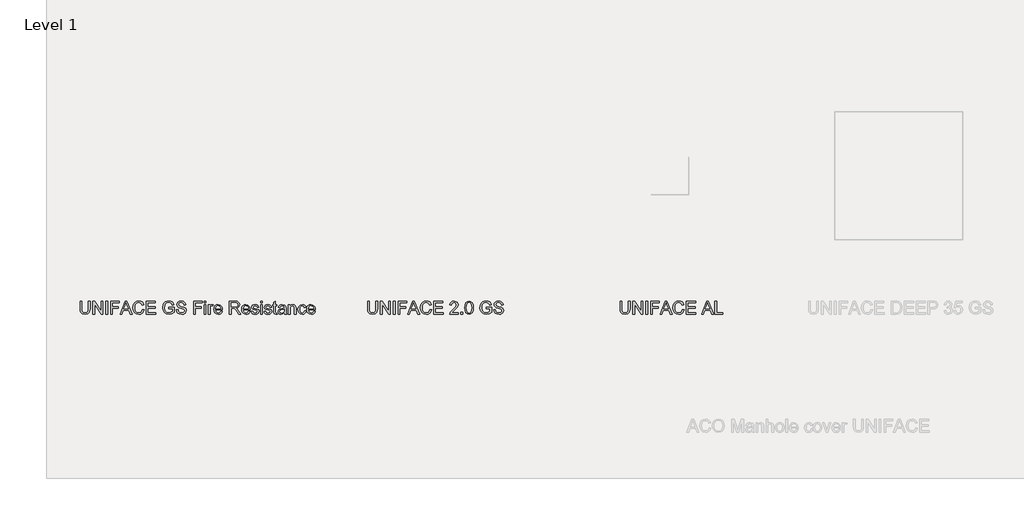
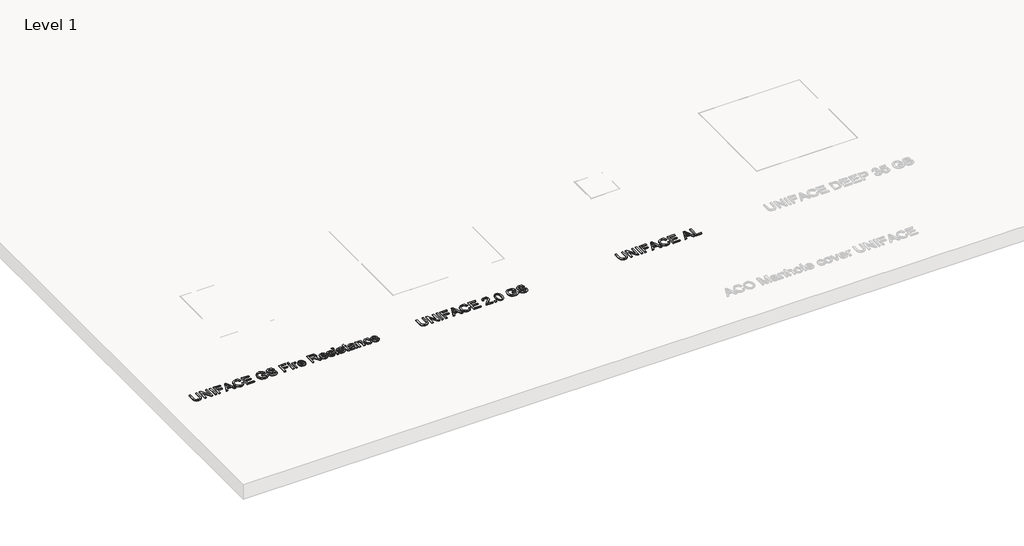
# One storey, part 3 of 9: 3 proxies.
"""IFC4 building model written with IfcOpenShell, lengths in millimetres."""

import ifcopenshell
import ifcopenshell.guid

model = None  # the IFC model being written
_history = None  # IfcOwnerHistory: only IFC2X3 demands one
_inside = {}  # id of a spatial element -> (the spatial element, [elements in it])
_under = {}  # id of a project, library or spatial element -> (it, [spatial elements below it])
_declared = {}  # id of a project -> (the project, [libraries it declares])
_typed = {}  # id of a type object -> (the type object, [elements of that type])
_made_of = {}  # id of a material, layer set ... -> (it, [elements and type objects made of it])


def new_model(schema):
    """Start an empty IFC model of exactly this schema.

    Asked for "IFC4X3", IfcOpenShell would pick the latest addendum, in which some entities
    have other attributes; the version numbers below select the first issue.
    IFC2X3 requires an IfcOwnerHistory on every rooted entity: one is made here for all.
    """
    global model, _history
    if schema == "IFC4X3":
        model = ifcopenshell.file(schema_version=(4, 3, 0, 0))
    else:
        model = ifcopenshell.file(schema=schema)
    _inside.clear()
    _under.clear()
    _declared.clear()
    _typed.clear()
    _made_of.clear()
    _history = None
    if model.schema == "IFC2X3":
        org = make("IfcOrganization", Name="unknown")
        user = make(
            "IfcPersonAndOrganization",
            ThePerson=make("IfcPerson", FamilyName="unknown"),
            TheOrganization=org,
        )
        app = make(
            "IfcApplication",
            ApplicationDeveloper=org,
            Version="unknown",
            ApplicationFullName="unknown",
            ApplicationIdentifier="unknown",
        )
        _history = make(
            "IfcOwnerHistory",
            OwningUser=user,
            OwningApplication=app,
            ChangeAction="ADDED",
            CreationDate=0,
        )
    return model


def make(cls, **values):
    """One entity of the class cls with the attributes given. An attribute that is None is left unset."""
    return model.create_entity(
        cls, **{name: value for name, value in values.items() if value is not None}
    )


def rooted(cls, **values):
    """An entity with a GlobalId (a new one), such as an element, a storey or a relation."""
    return make(cls, GlobalId=ifcopenshell.guid.new(), OwnerHistory=_history, **values)


def si_unit(unit_type, name, prefix=None):
    """IfcSIUnit, for example si_unit("LENGTHUNIT", "METRE", prefix="MILLI")."""
    return make("IfcSIUnit", UnitType=unit_type, Prefix=prefix, Name=name)


def assignment(units):
    """IfcUnitAssignment: the units of a project."""
    return None if units is None else make("IfcUnitAssignment", Units=units)


def point(xyz):
    """IfcCartesianPoint."""
    return None if xyz is None else make("IfcCartesianPoint", Coordinates=xyz)


def direction(xyz):
    """IfcDirection."""
    return None if xyz is None else make("IfcDirection", DirectionRatios=xyz)


def frame(location, z_axis=None, x_axis=None):
    """IfcAxis2Placement3D, a coordinate frame: its origin and axes. An axis left out is left unset."""
    return make(
        "IfcAxis2Placement3D",
        Location=point(location),
        Axis=direction(z_axis),
        RefDirection=direction(x_axis),
    )


def origin():
    """The frame at (0, 0, 0) with its axes left unset."""
    return frame((0.0, 0.0, 0.0))


def origin_with_axes():
    """The frame at (0, 0, 0) with the z axis (0, 0, 1) and the x axis (1, 0, 0) written out."""
    return frame((0.0, 0.0, 0.0), z_axis=(0.0, 0.0, 1.0), x_axis=(1.0, 0.0, 0.0))


def place(relative_to, where):
    """IfcLocalPlacement: puts the frame where relative to a parent placement (None: the world)."""
    return make(
        "IfcLocalPlacement", PlacementRelTo=relative_to, RelativePlacement=where
    )


def context(
    kind, dimensions, precision=None, world=None, true_north=None, identifier=None
):
    """IfcGeometricRepresentationContext, for example the 3D "Model" context."""
    return make(
        "IfcGeometricRepresentationContext",
        ContextIdentifier=identifier,
        ContextType=kind,
        CoordinateSpaceDimension=dimensions,
        Precision=precision,
        WorldCoordinateSystem=world,
        TrueNorth=true_north,
    )


def project(units=None, contexts=None):
    """IfcProject with its units and contexts."""
    return rooted(
        "IfcProject",
        Name="project",
        RepresentationContexts=contexts,
        UnitsInContext=assignment(units),
    )


def spatial(cls, under=None, at=None, **own):
    """A site, building, storey or space (cls), placed at a placement, below another one or the project."""
    s = rooted(cls, ObjectPlacement=at, **own)
    if under is not None:
        _under.setdefault(under.id(), (under, []))[1].append(s)
    return s


def polyline(points):
    """IfcPolyline through the points."""
    return make("IfcPolyline", Points=[point(p) for p in points])


def outline(outer, holes=None, kind="AREA"):
    """IfcArbitraryClosedProfileDef: a profile drawn as a closed curve; with holes, ...WithVoids."""
    if holes is None:
        return make("IfcArbitraryClosedProfileDef", ProfileType=kind, OuterCurve=outer)
    return make(
        "IfcArbitraryProfileDefWithVoids",
        ProfileType=kind,
        OuterCurve=outer,
        InnerCurves=holes,
    )


def extrude(swept, where, along, depth):
    """IfcExtrudedAreaSolid: the profile swept, set in the frame where, extruded along a direction by depth."""
    return make(
        "IfcExtrudedAreaSolid",
        SweptArea=swept,
        Position=where,
        ExtrudedDirection=direction(along),
        Depth=depth,
    )


def shape(context_of_items, identifier, shape_type, items):
    """IfcShapeRepresentation: the items that make up one representation, for example the "Body"."""
    return make(
        "IfcShapeRepresentation",
        ContextOfItems=context_of_items,
        RepresentationIdentifier=identifier,
        RepresentationType=shape_type,
        Items=items,
    )


def made_of(thing, what):
    """Note that an element or type object is made of a material, layer set ...; save() writes the relation."""
    if what is not None:
        _made_of.setdefault(what.id(), (what, []))[1].append(thing)
    return thing


def element(
    cls,
    number,
    at=None,
    inside=None,
    cuts=None,
    type_object=None,
    material=None,
    context=None,
    identifier="Body",
    shape_type=None,
    held_by="IfcProductDefinitionShape",
    body=None,
    shapes=None,
    **own,
):
    """One element of the class cls, such as IfcWall. Its Tag is "e" and its number.

    at: its placement. inside: the storey or other place that contains it. cuts: it is an
    opening in that element (IfcRelVoidsElement). A single representation is given by context,
    identifier, shape_type and body (its items); several are given by shapes. held_by: the class
    of the entity that holds the representations. save() writes the other relations.
    """
    e = rooted(cls, Tag="e%d" % number, ObjectPlacement=at, **own)
    if body is not None:
        shapes = [shape(context, identifier, shape_type, body)]
    if shapes is not None:
        e.Representation = make(held_by, Representations=shapes)
    if inside is not None:
        _inside.setdefault(inside.id(), (inside, []))[1].append(e)
    if cuts is not None:
        rooted(
            "IfcRelVoidsElement", RelatingBuildingElement=cuts, RelatedOpeningElement=e
        )
    if type_object is not None:
        _typed.setdefault(type_object.id(), (type_object, []))[1].append(e)
    return made_of(e, material)


def aggregate(whole, parts):
    """IfcRelAggregates: a whole, such as a stair, and the parts it consists of."""
    return rooted("IfcRelAggregates", RelatingObject=whole, RelatedObjects=parts)


def save(model, path):
    """Write the relations noted so far, then the file.

    IfcRelAggregates (storeys below a building ...), IfcRelContainedInSpatialStructure (elements
    in a storey), IfcRelDefinesByType, IfcRelAssociatesMaterial and IfcRelDeclares: one each for
    every whole, place, type object, material and project.
    """
    for whole, parts in _under.values():
        aggregate(whole, parts)
    for where, things in _inside.values():
        rooted(
            "IfcRelContainedInSpatialStructure",
            RelatedElements=things,
            RelatingStructure=where,
        )
    for kind, things in _typed.values():
        rooted("IfcRelDefinesByType", RelatedObjects=things, RelatingType=kind)
    for what, things in _made_of.values():
        rooted("IfcRelAssociatesMaterial", RelatedObjects=things, RelatingMaterial=what)
    for by, libraries in _declared.values():
        rooted("IfcRelDeclares", RelatingContext=by, RelatedDefinitions=libraries)
    model.write(path)


model = new_model("IFC4")

# Units and contexts
model_context = context("Model", 3, world=origin())
ifc_project = project(units=[si_unit("LENGTHUNIT", "METRE", prefix="MILLI")], contexts=[model_context])

# Site, building, storey
site = spatial("IfcSite", under=ifc_project)
building = spatial("IfcBuilding", under=site)
storey = spatial("IfcBuildingStorey", under=building, Name="Level 1", Elevation=0.0)

# Proxies
placement = place(None, origin())
element("IfcBuildingElementProxy", 1, Name="100mm ACO", ObjectType="100mm ACO", at=placement, inside=storey, context=model_context, shape_type="SweptSolid", body=[
    extrude(outline(polyline([(2099.7357905, -15767.3956492), (2098.8917656, -15781.7586247), (2094.4097023, -15795.3212318), (2082.5933536, -15806.9338503), (2060.7942276, -15811.5759873), (2039.3443533, -15807.4577279), (2027.3970352, -15796.8055515), (2022.5511681, -15783.1992879), (2021.503413, -15767.3956492), (2021.503413, -15709.1288264), (2034.5421426, -15709.1288264), (2034.5421426, -15767.7449008), (2035.8372842, -15783.5048831), (2042.6622443, -15795.2630232), (2049.6982105, -15799.1157058), (2059.7464725, -15800.3999334), (2077.2818176, -15796.3107783), (2084.9216982, -15785.3821109), (2086.6970609, -15767.7449008), (2086.6970609, -15709.1288264), (2099.7357905, -15709.1288264), (2099.7357905, -15767.3956492)])), origin_with_axes(), (0.0, 0.0, 1.0), 10.0),
    extrude(outline(polyline([(2200.3202758, -15809.7133117), (2186.3502084, -15809.7133117), (2135.3885667, -15731.0152653), (2135.3885667, -15809.7133117), (2122.0878983, -15809.7133117), (2122.0878983, -15709.1288264), (2136.08707, -15709.1288264), (2187.0196075, -15787.7686641), (2187.0196075, -15709.1288264), (2200.3202758, -15709.1288264), (2200.3202758, -15809.7133117)])), origin_with_axes(), (0.0, 0.0, 1.0), 10.0),
    extrude(outline(polyline([(2237.5737889, -15809.7133117), (2224.5350593, -15809.7133117), (2224.5350593, -15709.1288264), (2237.5737889, -15709.1288264), (2237.5737889, -15809.7133117)])), origin_with_axes(), (0.0, 0.0, 1.0), 10.0),
    extrude(outline(polyline([(2328.8448959, -15720.3048803), (2274.827302, -15720.3048803), (2274.827302, -15751.9703664), (2321.3941933, -15751.9703664), (2321.3941933, -15763.1464203), (2274.827302, -15763.1464203), (2274.827302, -15809.7133117), (2261.7885724, -15809.7133117), (2261.7885724, -15709.1288264), (2328.8448959, -15709.1288264), (2328.8448959, -15720.3048803)])), origin_with_axes(), (0.0, 0.0, 1.0), 10.0),
    extrude(outline(polyline([(2429.8950502, -15809.7133117), (2416.0122957, -15809.7133117), (2403.9631125, -15779.9105012), (2361.267094, -15779.9105012), (2349.6835798, -15809.7133117), (2335.8299296, -15809.7133117), (2374.9170141, -15709.1288264), (2389.1781245, -15709.1288264), (2429.8950502, -15809.7133117)]), holes=[polyline([(2399.4228406, -15768.7344473), (2384.9143435, -15731.8592902), (2381.9311521, -15720.1302544), (2377.2453586, -15738.8152196), (2365.6327401, -15768.7344473), (2399.4228406, -15768.7344473)])]), origin_with_axes(), (0.0, 0.0, 1.0), 10.0),
    extrude(outline(polyline([(2524.4258396, -15777.6985739), (2518.4776468, -15792.6108932), (2509.3061521, -15803.1793947), (2497.449785, -15809.4768392), (2483.4469752, -15811.5759873), (2462.4191133, -15807.6978384), (2447.9979292, -15796.0633916), (2439.6595452, -15778.9718873), (2436.8800839, -15758.7225656), (2440.1434043, -15737.2108447), (2449.9333656, -15720.9306229), (2464.852961, -15710.6822687), (2483.5051838, -15707.2661507), (2496.8968031, -15709.0888079), (2508.2001884, -15714.5567796), (2516.9205664, -15723.5390964), (2522.5631639, -15735.9047889), (2509.5244344, -15738.9316368), (2499.6144178, -15723.5791148), (2483.0104106, -15718.4422046), (2468.7056437, -15721.1670954), (2458.3299582, -15729.3417676), (2452.0215996, -15742.1003683), (2449.9188134, -15758.5770441), (2452.1452929, -15777.047365), (2458.8247314, -15790.0824565), (2469.0839997, -15797.8205642), (2482.0499685, -15800.3999334), (2492.6803166, -15798.7737302), (2501.1132896, -15793.8951208), (2507.3488874, -15785.7495528), (2511.38711, -15774.3224742), (2524.4258396, -15777.6985739)])), origin_with_axes(), (0.0, 0.0, 1.0), 10.0),
    extrude(outline(polyline([(2615.6969466, -15809.7133117), (2541.1899205, -15809.7133117), (2541.1899205, -15709.1288264), (2613.834271, -15709.1288264), (2613.834271, -15720.3048803), (2554.2286501, -15720.3048803), (2554.2286501, -15751.9703664), (2610.1089197, -15751.9703664), (2610.1089197, -15763.1464203), (2554.2286501, -15763.1464203), (2554.2286501, -15798.5372577), (2615.6969466, -15798.5372577), (2615.6969466, -15809.7133117)])), origin_with_axes(), (0.0, 0.0, 1.0), 10.0),
    extrude(outline(polyline([(2733.0455129, -15809.7133117), (2665.9891893, -15809.7133117), (2671.9846766, -15794.0260901), (2694.1330543, -15772.2851727), (2712.0030988, -15754.8516928), (2718.0058622, -15745.771149), (2720.0067833, -15736.6323966), (2714.5497257, -15723.593667), (2700.7688363, -15718.4422046), (2686.6532473, -15723.5791148), (2682.3603621, -15729.9857004), (2680.8905945, -15738.9316368), (2667.851865, -15737.5346301), (2671.0096823, -15725.3617536), (2678.0965811, -15716.4340074), (2688.3704015, -15710.9551216), (2701.0889837, -15709.1288264), (2714.5242594, -15711.2279745), (2724.619816, -15717.5254189), (2730.9390886, -15726.7915027), (2733.0455129, -15737.7965688), (2731.2847023, -15747.7575179), (2726.0022705, -15757.8494364), (2698.4113874, -15785.5276325), (2682.7532702, -15800.3999334), (2733.0455129, -15800.3999334), (2733.0455129, -15809.7133117)])), origin_with_axes(), (0.0, 0.0, 1.0), 10.0),
    extrude(outline(polyline([(2768.4363503, -15809.7133117), (2753.5349451, -15809.7133117), (2753.5349451, -15794.8119064), (2768.4363503, -15794.8119064), (2768.4363503, -15809.7133117)])), origin_with_axes(), (0.0, 0.0, 1.0), 10.0),
    extrude(outline(polyline([(2818.6994886, -15709.1288264), (2833.3807925, -15712.3339382), (2843.8674382, -15721.9492736), (2850.1594256, -15737.9748327), (2852.2567547, -15760.4106155), (2850.0884838, -15783.0137479), (2843.5836712, -15798.9592702), (2833.0260838, -15808.421808), (2818.6994886, -15811.5759873), (2804.043651, -15808.3781516), (2793.5751955, -15798.7846444), (2787.2941223, -15782.7954656), (2785.2004312, -15760.4106155), (2787.368702, -15737.811121), (2793.8735147, -15721.8183042), (2804.4165499, -15712.3011958), (2818.6994886, -15709.1288264)]), holes=[polyline([(2818.7285929, -15802.2626091), (2827.6199588, -15799.8142092), (2834.0374585, -15792.4690097), (2837.9228835, -15779.5576115), (2839.2180251, -15760.4106155), (2836.9478892, -15736.0503104), (2830.0938249, -15722.8078507), (2818.5830714, -15718.4422046), (2809.7098958, -15720.9342609), (2803.3469666, -15728.4104298), (2799.5161122, -15741.3945888), (2798.2391607, -15760.4106155), (2800.5529532, -15784.6108468), (2807.4070175, -15797.896963), (2818.7285929, -15802.2626091)])]), origin_with_axes(), (0.0, 0.0, 1.0), 10.0),
    extrude(outline(polyline([(2995.6827801, -15796.2962261), (2976.1610661, -15807.756047), (2954.9076458, -15811.5759873), (2934.4072995, -15808.039814), (2918.3089797, -15797.4312941), (2907.8859997, -15780.9582563), (2904.411673, -15759.8285293), (2910.0724608, -15733.168984), (2917.0756847, -15722.2184885), (2926.7637809, -15714.0474542), (2939.0239702, -15708.9614766), (2953.7434736, -15707.2661507), (2968.666707, -15709.1506546), (2980.3157059, -15714.8041662), (2988.6977464, -15724.2194096), (2993.8201044, -15737.3891085), (2980.7813748, -15740.7943125), (2977.001453, -15731.0334555), (2971.0750884, -15724.0447837), (2963.0022812, -15719.8428494), (2952.7830314, -15718.4422046), (2937.4341475, -15721.2653224), (2926.3708727, -15729.7346758), (2919.6805201, -15742.7734054), (2917.4504026, -15759.3046518), (2921.8597051, -15782.0496678), (2934.9420912, -15795.7577964), (2953.8016822, -15800.3999334), (2968.7540199, -15797.5768156), (2982.6440505, -15789.1074622), (2982.6440505, -15768.7344473), (2952.84124, -15768.7344473), (2952.84124, -15757.5583934), (2995.6827801, -15757.5583934), (2995.6827801, -15796.2962261)])), origin_with_axes(), (0.0, 0.0, 1.0), 10.0),
    extrude(outline(polyline([(3073.9151575, -15738.9316368), (3071.8924082, -15729.9857004), (3067.3957928, -15723.5791148), (3060.4253112, -15719.7264322), (3050.9809636, -15718.4422046), (3035.2646377, -15722.4440468), (3030.7243658, -15727.3590367), (3029.2109419, -15734.1003218), (3033.7075573, -15744.2140686), (3051.9996143, -15750.5442553), (3071.9506168, -15756.0595215), (3085.1785244, -15765.0382003), (3089.3040599, -15772.1614794), (3090.6792384, -15781.3657166), (3088.1580778, -15793.2730162), (3080.594596, -15802.9756646), (3068.9783395, -15809.4259066), (3054.2988546, -15811.5759873), (3036.2105277, -15809.1894341), (3023.3318718, -15802.0297746), (3015.4737089, -15791.072003), (3012.446861, -15777.2911136), (3025.4855905, -15776.1851499), (3028.1304445, -15787.1247313), (3034.3769564, -15794.6227284), (3043.2646841, -15798.9556322), (3053.8331857, -15800.3999334), (3071.0629355, -15795.6413792), (3075.9961155, -15790.035162), (3077.6405089, -15782.733619), (3075.9415449, -15775.3629532), (3070.8446532, -15770.3060799), (3047.4302381, -15762.8117208), (3033.1363853, -15758.4460747), (3023.4919455, -15752.5379004), (3018.0021456, -15744.8652774), (3016.1722123, -15735.2062855), (3018.4678145, -15724.1466488), (3025.3546212, -15715.1825222), (3036.1996136, -15709.2452436), (3050.3697731, -15707.2661507), (3065.0165157, -15709.2597957), (3076.4763366, -15715.2407308), (3084.0289043, -15724.8888086), (3086.9538871, -15737.8838818), (3073.9151575, -15738.9316368)])), origin_with_axes(), (0.0, 0.0, 1.0), 10.0),
])
element("IfcBuildingElementProxy", 2, Name="100mm ACO", ObjectType="100mm ACO", at=placement, inside=storey, context=model_context, shape_type="SweptSolid", body=[
    extrude(outline(polyline([(4084.6433876, -15767.3956492), (4083.7993627, -15781.7586247), (4079.3172994, -15795.3212318), (4067.5009507, -15806.9338503), (4045.7018247, -15811.5759873), (4024.2519504, -15807.4577279), (4012.3046323, -15796.8055515), (4007.4587652, -15783.1992879), (4006.4110101, -15767.3956492), (4006.4110101, -15709.1288264), (4019.4497397, -15709.1288264), (4019.4497397, -15767.7449008), (4020.7448814, -15783.5048831), (4027.5698414, -15795.2630232), (4034.6058076, -15799.1157058), (4044.6540696, -15800.3999334), (4062.1894147, -15796.3107783), (4069.8292953, -15785.3821109), (4071.604658, -15767.7449008), (4071.604658, -15709.1288264), (4084.6433876, -15709.1288264), (4084.6433876, -15767.3956492)])), origin_with_axes(), (0.0, 0.0, 1.0), 10.0),
    extrude(outline(polyline([(4185.2278729, -15809.7133117), (4171.2578055, -15809.7133117), (4120.2961638, -15731.0152653), (4120.2961638, -15809.7133117), (4106.9954954, -15809.7133117), (4106.9954954, -15709.1288264), (4120.9946671, -15709.1288264), (4171.9272046, -15787.7686641), (4171.9272046, -15709.1288264), (4185.2278729, -15709.1288264), (4185.2278729, -15809.7133117)])), origin_with_axes(), (0.0, 0.0, 1.0), 10.0),
    extrude(outline(polyline([(4222.481386, -15809.7133117), (4209.4426564, -15809.7133117), (4209.4426564, -15709.1288264), (4222.481386, -15709.1288264), (4222.481386, -15809.7133117)])), origin_with_axes(), (0.0, 0.0, 1.0), 10.0),
    extrude(outline(polyline([(4313.752493, -15720.3048803), (4259.7348991, -15720.3048803), (4259.7348991, -15751.9703664), (4306.3017904, -15751.9703664), (4306.3017904, -15763.1464203), (4259.7348991, -15763.1464203), (4259.7348991, -15809.7133117), (4246.6961695, -15809.7133117), (4246.6961695, -15709.1288264), (4313.752493, -15709.1288264), (4313.752493, -15720.3048803)])), origin_with_axes(), (0.0, 0.0, 1.0), 10.0),
    extrude(outline(polyline([(4414.8026473, -15809.7133117), (4400.9198928, -15809.7133117), (4388.8707096, -15779.9105012), (4346.1746911, -15779.9105012), (4334.5911769, -15809.7133117), (4320.7375267, -15809.7133117), (4359.8246112, -15709.1288264), (4374.0857216, -15709.1288264), (4414.8026473, -15809.7133117)]), holes=[polyline([(4384.3304377, -15768.7344473), (4369.8219406, -15731.8592902), (4366.8387492, -15720.1302544), (4362.1529557, -15738.8152196), (4350.5403372, -15768.7344473), (4384.3304377, -15768.7344473)])]), origin_with_axes(), (0.0, 0.0, 1.0), 10.0),
    extrude(outline(polyline([(4509.3334367, -15777.6985739), (4503.3852439, -15792.6108932), (4494.2137492, -15803.1793947), (4482.3573821, -15809.4768392), (4468.3545723, -15811.5759873), (4447.3267104, -15807.6978384), (4432.9055263, -15796.0633916), (4424.5671423, -15778.9718873), (4421.787681, -15758.7225656), (4425.0510014, -15737.2108447), (4434.8409627, -15720.9306229), (4449.7605581, -15710.6822687), (4468.4127809, -15707.2661507), (4481.8044002, -15709.0888079), (4493.1077855, -15714.5567796), (4501.8281635, -15723.5390964), (4507.4707611, -15735.9047889), (4494.4320315, -15738.9316368), (4484.5220149, -15723.5791148), (4467.9180077, -15718.4422046), (4453.6132408, -15721.1670954), (4443.2375553, -15729.3417676), (4436.9291967, -15742.1003683), (4434.8264105, -15758.5770441), (4437.05289, -15777.047365), (4443.7323285, -15790.0824565), (4453.9915968, -15797.8205642), (4466.9575656, -15800.3999334), (4477.5879137, -15798.7737302), (4486.0208867, -15793.8951208), (4492.2564845, -15785.7495528), (4496.2947071, -15774.3224742), (4509.3334367, -15777.6985739)])), origin_with_axes(), (0.0, 0.0, 1.0), 10.0),
    extrude(outline(polyline([(4600.6045438, -15809.7133117), (4526.0975176, -15809.7133117), (4526.0975176, -15709.1288264), (4598.7418681, -15709.1288264), (4598.7418681, -15720.3048803), (4539.1362472, -15720.3048803), (4539.1362472, -15751.9703664), (4595.0165168, -15751.9703664), (4595.0165168, -15763.1464203), (4539.1362472, -15763.1464203), (4539.1362472, -15798.5372577), (4600.6045438, -15798.5372577), (4600.6045438, -15809.7133117)])), origin_with_axes(), (0.0, 0.0, 1.0), 10.0),
    extrude(outline(polyline([(4740.7708867, -15809.7133117), (4726.8881322, -15809.7133117), (4714.8389491, -15779.9105012), (4672.1429306, -15779.9105012), (4660.5594164, -15809.7133117), (4646.7057662, -15809.7133117), (4685.7928506, -15709.1288264), (4700.0539611, -15709.1288264), (4740.7708867, -15809.7133117)]), holes=[polyline([(4710.2986772, -15768.7344473), (4695.7901801, -15731.8592902), (4692.8069886, -15720.1302544), (4688.1211952, -15738.8152196), (4676.5085767, -15768.7344473), (4710.2986772, -15768.7344473)])]), origin_with_axes(), (0.0, 0.0, 1.0), 10.0),
    extrude(outline(polyline([(4814.812244, -15809.7133117), (4751.4812717, -15809.7133117), (4751.4812717, -15709.1288264), (4764.5200013, -15709.1288264), (4764.5200013, -15798.5372577), (4814.812244, -15798.5372577), (4814.812244, -15809.7133117)])), origin_with_axes(), (0.0, 0.0, 1.0), 10.0),
])
element("IfcBuildingElementProxy", 3, Name="100mm ACO", ObjectType="100mm ACO", at=placement, inside=storey, context=model_context, shape_type="SweptSolid", body=[
    extrude(outline(polyline([(-159.7546973, -15767.3956492), (-160.5987222, -15781.7586247), (-165.0807855, -15795.3212318), (-176.8971342, -15806.9338503), (-198.6962602, -15811.5759873), (-220.1461346, -15807.4577279), (-232.0934526, -15796.8055515), (-236.9393198, -15783.1992879), (-237.9870748, -15767.3956492), (-237.9870748, -15709.1288264), (-224.9483452, -15709.1288264), (-224.9483452, -15767.7449008), (-223.6532036, -15783.5048831), (-216.8282436, -15795.2630232), (-209.7922773, -15799.1157058), (-199.7440153, -15800.3999334), (-182.2086703, -15796.3107783), (-174.5687896, -15785.3821109), (-172.7934269, -15767.7449008), (-172.7934269, -15709.1288264), (-159.7546973, -15709.1288264), (-159.7546973, -15767.3956492)])), origin_with_axes(), (0.0, 0.0, 1.0), 10.0),
    extrude(outline(polyline([(-59.170212, -15809.7133117), (-73.1402794, -15809.7133117), (-124.1019211, -15731.0152653), (-124.1019211, -15809.7133117), (-137.4025895, -15809.7133117), (-137.4025895, -15709.1288264), (-123.4034178, -15709.1288264), (-72.4708804, -15787.7686641), (-72.4708804, -15709.1288264), (-59.170212, -15709.1288264), (-59.170212, -15809.7133117)])), origin_with_axes(), (0.0, 0.0, 1.0), 10.0),
    extrude(outline(polyline([(-21.9166989, -15809.7133117), (-34.9554285, -15809.7133117), (-34.9554285, -15709.1288264), (-21.9166989, -15709.1288264), (-21.9166989, -15809.7133117)])), origin_with_axes(), (0.0, 0.0, 1.0), 10.0),
    extrude(outline(polyline([(69.3544081, -15720.3048803), (15.3368141, -15720.3048803), (15.3368141, -15751.9703664), (61.9037055, -15751.9703664), (61.9037055, -15763.1464203), (15.3368141, -15763.1464203), (15.3368141, -15809.7133117), (2.2980846, -15809.7133117), (2.2980846, -15709.1288264), (69.3544081, -15709.1288264), (69.3544081, -15720.3048803)])), origin_with_axes(), (0.0, 0.0, 1.0), 10.0),
    extrude(outline(polyline([(170.4045623, -15809.7133117), (156.5218079, -15809.7133117), (144.4726247, -15779.9105012), (101.7766062, -15779.9105012), (90.193092, -15809.7133117), (76.3394418, -15809.7133117), (115.4265262, -15709.1288264), (129.6876367, -15709.1288264), (170.4045623, -15809.7133117)]), holes=[polyline([(139.9323528, -15768.7344473), (125.4238557, -15731.8592902), (122.4406643, -15720.1302544), (117.7548708, -15738.8152196), (106.1422523, -15768.7344473), (139.9323528, -15768.7344473)])]), origin_with_axes(), (0.0, 0.0, 1.0), 10.0),
    extrude(outline(polyline([(264.9353518, -15777.6985739), (258.987159, -15792.6108932), (249.8156643, -15803.1793947), (237.9592971, -15809.4768392), (223.9564874, -15811.5759873), (202.9286255, -15807.6978384), (188.5074414, -15796.0633916), (180.1690574, -15778.9718873), (177.389596, -15758.7225656), (180.6529165, -15737.2108447), (190.4428778, -15720.9306229), (205.3624732, -15710.6822687), (224.014696, -15707.2661507), (237.4063153, -15709.0888079), (248.7097006, -15714.5567796), (257.4300786, -15723.5390964), (263.0726761, -15735.9047889), (250.0339466, -15738.9316368), (240.12393, -15723.5791148), (223.5199228, -15718.4422046), (209.2151559, -15721.1670954), (198.8394704, -15729.3417676), (192.5311118, -15742.1003683), (190.4283256, -15758.5770441), (192.6548051, -15777.047365), (199.3342436, -15790.0824565), (209.5935118, -15797.8205642), (222.5594807, -15800.3999334), (233.1898288, -15798.7737302), (241.6228018, -15793.8951208), (247.8583996, -15785.7495528), (251.8966222, -15774.3224742), (264.9353518, -15777.6985739)])), origin_with_axes(), (0.0, 0.0, 1.0), 10.0),
    extrude(outline(polyline([(356.2064588, -15809.7133117), (281.6994327, -15809.7133117), (281.6994327, -15709.1288264), (354.3437832, -15709.1288264), (354.3437832, -15720.3048803), (294.7381623, -15720.3048803), (294.7381623, -15751.9703664), (350.6184319, -15751.9703664), (350.6184319, -15763.1464203), (294.7381623, -15763.1464203), (294.7381623, -15798.5372577), (356.2064588, -15798.5372577), (356.2064588, -15809.7133117)])), origin_with_axes(), (0.0, 0.0, 1.0), 10.0),
    extrude(outline(polyline([(501.4951599, -15796.2962261), (481.9734459, -15807.756047), (460.7200256, -15811.5759873), (440.2196793, -15808.039814), (424.1213594, -15797.4312941), (413.6983795, -15780.9582563), (410.2240528, -15759.8285293), (415.8848405, -15733.168984), (422.8880644, -15722.2184885), (432.5761607, -15714.0474542), (444.83635, -15708.9614766), (459.5558533, -15707.2661507), (474.4790868, -15709.1506546), (486.1280857, -15714.8041662), (494.5101262, -15724.2194096), (499.6324842, -15737.3891085), (486.5937546, -15740.7943125), (482.8138327, -15731.0334555), (476.8874682, -15724.0447837), (468.814661, -15719.8428494), (458.5954112, -15718.4422046), (443.2465272, -15721.2653224), (432.1832525, -15729.7346758), (425.4928999, -15742.7734054), (423.2627824, -15759.3046518), (427.6720849, -15782.0496678), (440.7544709, -15795.7577964), (459.6140619, -15800.3999334), (474.5663997, -15797.5768156), (488.4564303, -15789.1074622), (488.4564303, -15768.7344473), (458.6536198, -15768.7344473), (458.6536198, -15757.5583934), (501.4951599, -15757.5583934), (501.4951599, -15796.2962261)])), origin_with_axes(), (0.0, 0.0, 1.0), 10.0),
    extrude(outline(polyline([(579.7275373, -15738.9316368), (577.704788, -15729.9857004), (573.2081725, -15723.5791148), (566.237691, -15719.7264322), (556.7933433, -15718.4422046), (541.0770175, -15722.4440468), (536.5367456, -15727.3590367), (535.0233216, -15734.1003218), (539.5199371, -15744.2140686), (557.8119941, -15750.5442553), (577.7629966, -15756.0595215), (590.9909042, -15765.0382003), (595.1164397, -15772.1614794), (596.4916182, -15781.3657166), (593.9704576, -15793.2730162), (586.4069758, -15802.9756646), (574.7907192, -15809.4259066), (560.1112343, -15811.5759873), (542.0229075, -15809.1894341), (529.1442516, -15802.0297746), (521.2860887, -15791.072003), (518.2592407, -15777.2911136), (531.2979703, -15776.1851499), (533.9428242, -15787.1247313), (540.1893361, -15794.6227284), (549.0770639, -15798.9556322), (559.6455654, -15800.3999334), (576.8753152, -15795.6413792), (581.8084953, -15790.035162), (583.4528886, -15782.733619), (581.7539247, -15775.3629532), (576.6570329, -15770.3060799), (553.2426179, -15762.8117208), (538.948765, -15758.4460747), (529.3043253, -15752.5379004), (523.8145254, -15744.8652774), (521.984592, -15735.2062855), (524.2801943, -15724.1466488), (531.1670009, -15715.1825222), (542.0119934, -15709.2452436), (556.1821529, -15707.2661507), (570.8288954, -15709.2597957), (582.2887163, -15715.2407308), (589.841284, -15724.8888086), (592.7662669, -15737.8838818), (579.7275373, -15738.9316368)])), origin_with_axes(), (0.0, 0.0, 1.0), 10.0),
    extrude(outline(polyline([(721.290887, -15720.3048803), (667.2732931, -15720.3048803), (667.2732931, -15751.9703664), (713.8401844, -15751.9703664), (713.8401844, -15763.1464203), (667.2732931, -15763.1464203), (667.2732931, -15809.7133117), (654.2345635, -15809.7133117), (654.2345635, -15709.1288264), (721.290887, -15709.1288264), (721.290887, -15720.3048803)])), origin_with_axes(), (0.0, 0.0, 1.0), 10.0),
    extrude(outline(polyline([(751.0936975, -15809.7133117), (738.0549679, -15809.7133117), (738.0549679, -15737.0689612), (751.0936975, -15737.0689612), (751.0936975, -15809.7133117)])), origin_with_axes(), (0.0, 0.0, 1.0), 10.0),
    extrude(outline(polyline([(751.0936975, -15722.1675559), (738.0549679, -15722.1675559), (738.0549679, -15709.1288264), (751.0936975, -15709.1288264), (751.0936975, -15722.1675559)])), origin_with_axes(), (0.0, 0.0, 1.0), 10.0),
    extrude(outline(polyline([(808.8366428, -15738.0585076), (804.7620398, -15746.3823394), (796.2053735, -15744.5196638), (790.377236, -15746.1567811), (786.1643875, -15751.0681329), (782.7591836, -15769.4038463), (782.7591836, -15809.7133117), (769.720454, -15809.7133117), (769.720454, -15737.0689612), (780.896508, -15737.0689612), (780.896508, -15747.8375548), (787.8669895, -15738.3641028), (796.350895, -15735.2062855), (808.8366428, -15738.0585076)])), origin_with_axes(), (0.0, 0.0, 1.0), 10.0),
    extrude(outline(polyline([(879.6183176, -15776.1851499), (825.6007237, -15776.1851499), (827.6853197, -15787.375756), (832.4256837, -15795.5686184), (839.2470056, -15800.5891114), (847.5744755, -15802.2626091), (859.3180634, -15798.5518099), (866.579588, -15787.3612038), (879.6183176, -15788.8746278), (875.2162912, -15798.5518099), (868.2385336, -15805.6969173), (858.9397074, -15810.1062198), (847.5744755, -15811.5759873), (832.9022667, -15809.0548267), (821.8317159, -15801.4913449), (814.8794245, -15789.562217), (812.5619941, -15773.9441183), (814.7957497, -15758.3151053), (821.4970164, -15745.9457748), (832.2583339, -15737.8911578), (846.672242, -15735.2062855), (861.9811075, -15738.6842502), (874.4814074, -15750.5297032), (878.3340901, -15761.127309), (879.6183176, -15776.1851499)]), holes=[polyline([(866.579588, -15766.8717716), (864.4840779, -15756.6561598), (859.7109716, -15749.7584391), (846.3520946, -15744.5196638), (838.4502752, -15746.0767442), (832.0909841, -15750.7479855), (825.6007237, -15766.8717716), (866.579588, -15766.8717716)])]), origin_with_axes(), (0.0, 0.0, 1.0), 10.0),
    extrude(outline(polyline([(1023.5100119, -15809.7133117), (1008.4339808, -15809.7133117), (989.5598377, -15779.6776667), (981.7453312, -15770.4952579), (973.9744812, -15765.954986), (964.3409556, -15765.009096), (948.5373168, -15765.009096), (948.5373168, -15809.7133117), (935.4985872, -15809.7133117), (935.4985872, -15709.1288264), (979.8826556, -15709.1288264), (995.1478646, -15710.2784465), (1005.9455626, -15715.1097615), (1013.09067, -15724.3940354), (1015.5936404, -15736.1958319), (1013.7673451, -15746.3059406), (1008.2884593, -15754.2259502), (999.3679892, -15759.803063), (987.216941, -15762.8844816), (996.9305034, -15770.415221), (1006.0474276, -15782.1515329), (1023.5100119, -15809.7133117)]), holes=[polyline([(948.5373168, -15753.833042), (977.4669981, -15753.833042), (991.3352004, -15752.3487224), (999.4989586, -15746.5715174), (1002.5549108, -15736.9234396), (997.4762092, -15725.1507474), (990.7494762, -15721.5163471), (980.7266805, -15720.3048803), (948.5373168, -15720.3048803), (948.5373168, -15753.833042)])]), origin_with_axes(), (0.0, 0.0, 1.0), 10.0),
    extrude(outline(polyline([(1097.5513692, -15776.1851499), (1043.5337752, -15776.1851499), (1045.6183712, -15787.375756), (1050.3587352, -15795.5686184), (1057.1800572, -15800.5891114), (1065.507527, -15802.2626091), (1077.251115, -15798.5518099), (1084.5126396, -15787.3612038), (1097.5513692, -15788.8746278), (1093.1493427, -15798.5518099), (1086.1715851, -15805.6969173), (1076.872759, -15810.1062198), (1065.507527, -15811.5759873), (1050.8353182, -15809.0548267), (1039.7647674, -15801.4913449), (1032.8124761, -15789.562217), (1030.4950456, -15773.9441183), (1032.7288012, -15758.3151053), (1039.4300679, -15745.9457748), (1050.1913854, -15737.8911578), (1064.6052935, -15735.2062855), (1079.9141591, -15738.6842502), (1092.414459, -15750.5297032), (1096.2671416, -15761.127309), (1097.5513692, -15776.1851499)]), holes=[polyline([(1084.5126396, -15766.8717716), (1082.4171295, -15756.6561598), (1077.6440231, -15749.7584391), (1064.2851461, -15744.5196638), (1056.3833268, -15746.0767442), (1050.0240357, -15750.7479855), (1043.5337752, -15766.8717716), (1084.5126396, -15766.8717716)])]), origin_with_axes(), (0.0, 0.0, 1.0), 10.0),
    extrude(outline(polyline([(1153.4316388, -15757.5583934), (1148.614876, -15747.7793462), (1137.4824785, -15744.5196638), (1126.1026944, -15747.3136773), (1121.7661527, -15755.4337789), (1124.6329269, -15762.6225428), (1138.1518775, -15766.5225199), (1155.9782656, -15770.7135402), (1165.0733616, -15777.0728313), (1168.333044, -15788.4671675), (1166.3102947, -15797.4494843), (1160.2420466, -15804.8965488), (1150.7904229, -15809.9061277), (1138.6175465, -15811.5759873), (1126.0699521, -15810.1717045), (1116.6001381, -15805.9588561), (1110.2008286, -15798.944718), (1106.8647474, -15789.1365666), (1119.903477, -15787.3612038), (1125.5351604, -15798.5518099), (1138.6175465, -15802.2626091), (1150.986877, -15798.4062884), (1155.2943144, -15789.0201493), (1153.358878, -15783.0101099), (1148.527563, -15779.6194581), (1134.8630908, -15776.7090274), (1121.609717, -15773.4638972), (1113.8061247, -15768.8508645), (1108.7274231, -15756.1904909), (1110.6082889, -15747.855745), (1116.2508865, -15741.129012), (1125.0731295, -15736.6869671), (1136.492932, -15735.2062855), (1148.4948207, -15736.5014272), (1157.4916896, -15740.3868522), (1163.4835388, -15746.8552844), (1166.4703684, -15755.8994479), (1153.4316388, -15757.5583934)])), origin_with_axes(), (0.0, 0.0, 1.0), 10.0),
    extrude(outline(polyline([(1194.4105032, -15809.7133117), (1181.3717736, -15809.7133117), (1181.3717736, -15737.0689612), (1194.4105032, -15737.0689612), (1194.4105032, -15809.7133117)])), origin_with_axes(), (0.0, 0.0, 1.0), 10.0),
    extrude(outline(polyline([(1194.4105032, -15722.1675559), (1181.3717736, -15722.1675559), (1181.3717736, -15709.1288264), (1194.4105032, -15709.1288264), (1194.4105032, -15722.1675559)])), origin_with_axes(), (0.0, 0.0, 1.0), 10.0),
    extrude(outline(polyline([(1254.0161241, -15757.5583934), (1249.1993613, -15747.7793462), (1238.0669638, -15744.5196638), (1226.6871797, -15747.3136773), (1222.350638, -15755.4337789), (1225.2174122, -15762.6225428), (1238.7363629, -15766.5225199), (1256.562751, -15770.7135402), (1265.6578469, -15777.0728313), (1268.9175293, -15788.4671675), (1266.89478, -15797.4494843), (1260.826532, -15804.8965488), (1251.3749082, -15809.9061277), (1239.2020318, -15811.5759873), (1226.6544374, -15810.1717045), (1217.1846235, -15805.9588561), (1210.7853139, -15798.944718), (1207.4492327, -15789.1365666), (1220.4879623, -15787.3612038), (1226.1196457, -15798.5518099), (1239.2020318, -15802.2626091), (1251.5713623, -15798.4062884), (1255.8787997, -15789.0201493), (1253.9433633, -15783.0101099), (1249.1120483, -15779.6194581), (1235.4475762, -15776.7090274), (1222.1942023, -15773.4638972), (1214.39061, -15768.8508645), (1209.3119084, -15756.1904909), (1211.1927742, -15747.855745), (1216.8353718, -15741.129012), (1225.6576149, -15736.6869671), (1237.0774174, -15735.2062855), (1249.079306, -15736.5014272), (1258.0761749, -15740.3868522), (1264.0680242, -15746.8552844), (1267.0548537, -15755.8994479), (1254.0161241, -15757.5583934)])), origin_with_axes(), (0.0, 0.0, 1.0), 10.0),
    extrude(outline(polyline([(1309.8963937, -15810.7319624), (1300.7576413, -15811.5759873), (1289.1013663, -15808.6801088), (1284.6338552, -15801.3312712), (1283.8189346, -15788.9328364), (1283.8189346, -15746.3823394), (1274.5055563, -15746.3823394), (1274.5055563, -15737.0689612), (1283.8189346, -15737.0689612), (1283.8189346, -15718.6168305), (1296.8576641, -15710.991502), (1296.8576641, -15737.0689612), (1308.0337181, -15737.0689612), (1308.0337181, -15746.3823394), (1296.8576641, -15746.3823394), (1296.8576641, -15791.552224), (1297.9054192, -15799.8178473), (1303.2315074, -15802.2626091), (1308.2956568, -15802.2626091), (1309.8963937, -15810.7319624)])), origin_with_axes(), (0.0, 0.0, 1.0), 10.0),
    extrude(outline(polyline([(1384.4034199, -15809.7133117), (1371.3646903, -15809.7133117), (1367.639339, -15800.9238109), (1355.0735544, -15808.9129432), (1341.5327755, -15811.5759873), (1331.4881515, -15810.120772), (1323.8228047, -15805.7551259), (1318.9660234, -15799.0029267), (1317.3470963, -15790.3880518), (1318.9332811, -15782.0314776), (1323.6918353, -15775.2974685), (1332.3721949, -15770.3752026), (1345.7237957, -15767.4538578), (1357.1326841, -15765.7075993), (1367.639339, -15763.1464203), (1367.3046395, -15755.0699751), (1365.3546509, -15750.1658994), (1360.1595321, -15746.0767442), (1350.5260064, -15744.5196638), (1338.3749582, -15747.6774811), (1332.2485016, -15759.421069), (1319.209772, -15757.8203321), (1322.7859637, -15747.953972), (1329.4981445, -15740.8816254), (1339.3390384, -15736.6251205), (1352.3013692, -15735.2062855), (1371.6702855, -15739.0917105), (1379.2665097, -15748.4632974), (1380.6780686, -15762.5934385), (1380.6780686, -15779.2119978), (1381.2310504, -15799.5850128), (1384.4034199, -15809.7133117)]), holes=[polyline([(1367.639339, -15777.1164877), (1367.639339, -15772.4597986), (1344.2249239, -15777.8149911), (1333.8456004, -15781.8968702), (1330.3858259, -15790.1843216), (1334.1111772, -15798.8574051), (1344.8506665, -15802.2626091), (1360.7561704, -15796.5581649), (1365.9185468, -15788.8455235), (1367.639339, -15777.1164877)])]), origin_with_axes(), (0.0, 0.0, 1.0), 10.0),
    extrude(outline(polyline([(1458.910446, -15809.7133117), (1445.8717165, -15809.7133117), (1445.8717165, -15764.4852184), (1441.9862915, -15748.7979969), (1431.1740414, -15744.5196638), (1421.089399, -15747.2554686), (1414.3371997, -15754.96811), (1412.3435547, -15769.0545947), (1412.3435547, -15809.7133117), (1399.3048251, -15809.7133117), (1399.3048251, -15737.0689612), (1410.480879, -15737.0689612), (1410.480879, -15747.1681557), (1420.4345521, -15738.189477), (1433.7643247, -15735.2062855), (1445.2023174, -15737.2726913), (1454.0500268, -15743.4573566), (1458.0809733, -15752.2468573), (1458.910446, -15764.8635744), (1458.910446, -15809.7133117)])), origin_with_axes(), (0.0, 0.0, 1.0), 10.0),
    extrude(outline(polyline([(1539.0054992, -15785.1201722), (1534.9527244, -15796.9947295), (1527.7421323, -15805.2021441), (1518.3632694, -15809.9825265), (1507.805682, -15811.5759873), (1493.406326, -15808.9711518), (1482.6886649, -15801.1566454), (1476.0310547, -15789.0419776), (1473.8118513, -15773.536658), (1478.8760007, -15750.7188812), (1491.5509264, -15738.6842502), (1507.5437432, -15735.2062855), (1518.1559012, -15736.6287585), (1527.1163897, -15740.8961775), (1533.6903251, -15747.9212297), (1537.1428235, -15757.616602), (1524.1040939, -15759.421069), (1518.1668153, -15748.2595672), (1507.6892647, -15744.5196638), (1498.6814817, -15746.4150818), (1492.1475647, -15752.1013358), (1488.1748268, -15761.1855176), (1486.8505809, -15773.2747192), (1488.1784649, -15785.574927), (1492.1621169, -15794.7100414), (1498.6487393, -15800.3744671), (1507.4855346, -15802.2626091), (1520.1604603, -15797.6059199), (1525.9667696, -15783.6358525), (1539.0054992, -15785.1201722)])), origin_with_axes(), (0.0, 0.0, 1.0), 10.0),
    extrude(outline(polyline([(1609.787174, -15776.1851499), (1555.7695801, -15776.1851499), (1557.854176, -15787.375756), (1562.5945401, -15795.5686184), (1569.415862, -15800.5891114), (1577.7433319, -15802.2626091), (1589.4869198, -15798.5518099), (1596.7484444, -15787.3612038), (1609.787174, -15788.8746278), (1605.3851476, -15798.5518099), (1598.4073899, -15805.6969173), (1589.1085638, -15810.1062198), (1577.7433319, -15811.5759873), (1563.0711231, -15809.0548267), (1552.0005723, -15801.4913449), (1545.0482809, -15789.562217), (1542.7308505, -15773.9441183), (1544.964606, -15758.3151053), (1551.6658728, -15745.9457748), (1562.4271903, -15737.8911578), (1576.8410984, -15735.2062855), (1592.1499639, -15738.6842502), (1604.6502638, -15750.5297032), (1608.5029465, -15761.127309), (1609.787174, -15776.1851499)]), holes=[polyline([(1596.7484444, -15766.8717716), (1594.6529343, -15756.6561598), (1589.879828, -15749.7584391), (1576.520951, -15744.5196638), (1568.6191316, -15746.0767442), (1562.2598405, -15750.7479855), (1555.7695801, -15766.8717716), (1596.7484444, -15766.8717716)])]), origin_with_axes(), (0.0, 0.0, 1.0), 10.0),
])

save(model, "model.ifc")
